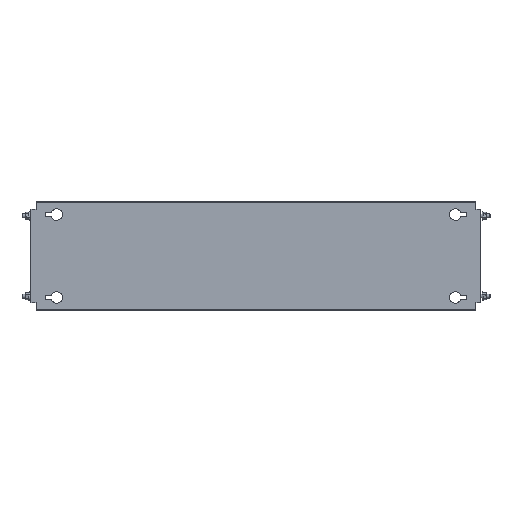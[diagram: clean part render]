
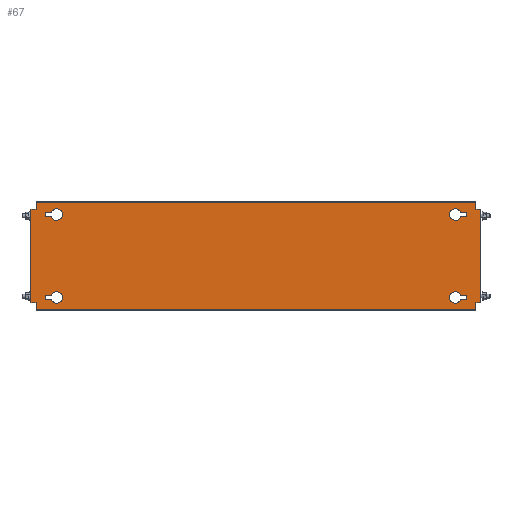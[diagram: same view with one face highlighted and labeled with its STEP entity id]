
A CAD part, top view. The second image highlights one B-rep face of the part: STEP entity #67.
In plain terms, the highlighted planar face has unit normal (0, 0, 1).
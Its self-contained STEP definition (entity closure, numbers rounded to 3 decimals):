
#67 = ADVANCED_FACE('',(#68,#103,#138,#300,#335),#370,.T.);
#68 = FACE_BOUND('',#69,.T.);
#69 = EDGE_LOOP('',(#70,#80,#88,#96));
#70 = ORIENTED_EDGE('',*,*,#71,.T.);
#71 = EDGE_CURVE('',#72,#74,#76,.T.);
#72 = VERTEX_POINT('',#73);
#73 = CARTESIAN_POINT('',(318.393,67.75,2.));
#74 = VERTEX_POINT('',#75);
#75 = CARTESIAN_POINT('',(328.,67.75,2.));
#76 = LINE('',#77,#78);
#77 = CARTESIAN_POINT('',(327.,67.75,2.));
#78 = VECTOR('',#79,1.);
#79 = DIRECTION('',(1.,0.,0.));
#80 = ORIENTED_EDGE('',*,*,#81,.T.);
#81 = EDGE_CURVE('',#74,#82,#84,.T.);
#82 = VERTEX_POINT('',#83);
#83 = CARTESIAN_POINT('',(328.,61.25,2.));
#84 = LINE('',#85,#86);
#85 = CARTESIAN_POINT('',(328.,67.75,2.));
#86 = VECTOR('',#87,1.);
#87 = DIRECTION('',(0.,-1.,0.));
#88 = ORIENTED_EDGE('',*,*,#89,.T.);
#89 = EDGE_CURVE('',#82,#90,#92,.T.);
#90 = VERTEX_POINT('',#91);
#91 = CARTESIAN_POINT('',(318.393,61.25,2.));
#92 = LINE('',#93,#94);
#93 = CARTESIAN_POINT('',(327.,61.25,2.));
#94 = VECTOR('',#95,1.);
#95 = DIRECTION('',(-1.,0.,0.));
#96 = ORIENTED_EDGE('',*,*,#97,.T.);
#97 = EDGE_CURVE('',#90,#72,#98,.T.);
#98 = CIRCLE('',#99,9.);
#99 = AXIS2_PLACEMENT_3D('',#100,#101,#102);
#100 = CARTESIAN_POINT('',(310.,64.5,2.));
#101 = DIRECTION('',(0.,0.,-1.));
#102 = DIRECTION('',(1.,0.,0.));
#103 = FACE_BOUND('',#104,.T.);
#104 = EDGE_LOOP('',(#105,#115,#123,#131));
#105 = ORIENTED_EDGE('',*,*,#106,.T.);
#106 = EDGE_CURVE('',#107,#109,#111,.T.);
#107 = VERTEX_POINT('',#108);
#108 = CARTESIAN_POINT('',(-318.393,-67.75,2.));
#109 = VERTEX_POINT('',#110);
#110 = CARTESIAN_POINT('',(-328.,-67.75,2.));
#111 = LINE('',#112,#113);
#112 = CARTESIAN_POINT('',(-327.,-67.75,2.));
#113 = VECTOR('',#114,1.);
#114 = DIRECTION('',(-1.,0.,0.));
#115 = ORIENTED_EDGE('',*,*,#116,.T.);
#116 = EDGE_CURVE('',#109,#117,#119,.T.);
#117 = VERTEX_POINT('',#118);
#118 = CARTESIAN_POINT('',(-328.,-61.25,2.));
#119 = LINE('',#120,#121);
#120 = CARTESIAN_POINT('',(-328.,-67.75,2.));
#121 = VECTOR('',#122,1.);
#122 = DIRECTION('',(0.,1.,0.));
#123 = ORIENTED_EDGE('',*,*,#124,.T.);
#124 = EDGE_CURVE('',#117,#125,#127,.T.);
#125 = VERTEX_POINT('',#126);
#126 = CARTESIAN_POINT('',(-318.393,-61.25,2.));
#127 = LINE('',#128,#129);
#128 = CARTESIAN_POINT('',(-327.,-61.25,2.));
#129 = VECTOR('',#130,1.);
#130 = DIRECTION('',(1.,0.,-0.));
#131 = ORIENTED_EDGE('',*,*,#132,.T.);
#132 = EDGE_CURVE('',#125,#107,#133,.T.);
#133 = CIRCLE('',#134,9.);
#134 = AXIS2_PLACEMENT_3D('',#135,#136,#137);
#135 = CARTESIAN_POINT('',(-310.,-64.5,2.));
#136 = DIRECTION('',(0.,0.,-1.));
#137 = DIRECTION('',(-1.,0.,0.));
#138 = FACE_BOUND('',#139,.T.);
#139 = EDGE_LOOP('',(#140,#150,#158,#166,#174,#182,#190,#198,#206,#214,
    #222,#230,#238,#246,#254,#262,#270,#278,#286,#294));
#140 = ORIENTED_EDGE('',*,*,#141,.F.);
#141 = EDGE_CURVE('',#142,#144,#146,.T.);
#142 = VERTEX_POINT('',#143);
#143 = CARTESIAN_POINT('',(-347.4,72.5,2.));
#144 = VERTEX_POINT('',#145);
#145 = CARTESIAN_POINT('',(-342.,72.5,2.));
#146 = LINE('',#147,#148);
#147 = CARTESIAN_POINT('',(-348.,72.5,2.));
#148 = VECTOR('',#149,1.);
#149 = DIRECTION('',(1.,0.,-0.));
#150 = ORIENTED_EDGE('',*,*,#151,.T.);
#151 = EDGE_CURVE('',#142,#152,#154,.T.);
#152 = VERTEX_POINT('',#153);
#153 = CARTESIAN_POINT('',(-350.,72.5,2.));
#154 = LINE('',#155,#156);
#155 = CARTESIAN_POINT('',(-347.4,72.5,2.));
#156 = VECTOR('',#157,1.);
#157 = DIRECTION('',(-1.,0.,0.));
#158 = ORIENTED_EDGE('',*,*,#159,.F.);
#159 = EDGE_CURVE('',#160,#152,#162,.T.);
#160 = VERTEX_POINT('',#161);
#161 = CARTESIAN_POINT('',(-350.,-72.5,2.));
#162 = LINE('',#163,#164);
#163 = CARTESIAN_POINT('',(-350.,-82.5,2.));
#164 = VECTOR('',#165,1.);
#165 = DIRECTION('',(-0.,1.,-0.));
#166 = ORIENTED_EDGE('',*,*,#167,.F.);
#167 = EDGE_CURVE('',#168,#160,#170,.T.);
#168 = VERTEX_POINT('',#169);
#169 = CARTESIAN_POINT('',(-347.4,-72.5,2.));
#170 = LINE('',#171,#172);
#171 = CARTESIAN_POINT('',(-342.,-72.5,2.));
#172 = VECTOR('',#173,1.);
#173 = DIRECTION('',(-1.,-0.,-0.));
#174 = ORIENTED_EDGE('',*,*,#175,.T.);
#175 = EDGE_CURVE('',#168,#176,#178,.T.);
#176 = VERTEX_POINT('',#177);
#177 = CARTESIAN_POINT('',(-342.,-72.5,2.));
#178 = LINE('',#179,#180);
#179 = CARTESIAN_POINT('',(-348.,-72.5,2.));
#180 = VECTOR('',#181,1.);
#181 = DIRECTION('',(1.,0.,-0.));
#182 = ORIENTED_EDGE('',*,*,#183,.T.);
#183 = EDGE_CURVE('',#176,#184,#186,.T.);
#184 = VERTEX_POINT('',#185);
#185 = CARTESIAN_POINT('',(-342.,-81.9,2.));
#186 = LINE('',#187,#188);
#187 = CARTESIAN_POINT('',(-342.,82.5,2.));
#188 = VECTOR('',#189,1.);
#189 = DIRECTION('',(0.,-1.,0.));
#190 = ORIENTED_EDGE('',*,*,#191,.T.);
#191 = EDGE_CURVE('',#184,#192,#194,.T.);
#192 = VERTEX_POINT('',#193);
#193 = CARTESIAN_POINT('',(-342.,-82.5,2.));
#194 = LINE('',#195,#196);
#195 = CARTESIAN_POINT('',(-342.,-81.9,2.));
#196 = VECTOR('',#197,1.);
#197 = DIRECTION('',(-0.,-1.,-0.));
#198 = ORIENTED_EDGE('',*,*,#199,.T.);
#199 = EDGE_CURVE('',#192,#200,#202,.T.);
#200 = VERTEX_POINT('',#201);
#201 = CARTESIAN_POINT('',(342.,-82.5,2.));
#202 = LINE('',#203,#204);
#203 = CARTESIAN_POINT('',(342.,-82.5,2.));
#204 = VECTOR('',#205,1.);
#205 = DIRECTION('',(1.,0.,0.));
#206 = ORIENTED_EDGE('',*,*,#207,.F.);
#207 = EDGE_CURVE('',#208,#200,#210,.T.);
#208 = VERTEX_POINT('',#209);
#209 = CARTESIAN_POINT('',(342.,-81.9,2.));
#210 = LINE('',#211,#212);
#211 = CARTESIAN_POINT('',(342.,-82.5,2.));
#212 = VECTOR('',#213,1.);
#213 = DIRECTION('',(0.,-1.,0.));
#214 = ORIENTED_EDGE('',*,*,#215,.T.);
#215 = EDGE_CURVE('',#208,#216,#218,.T.);
#216 = VERTEX_POINT('',#217);
#217 = CARTESIAN_POINT('',(342.,-72.5,2.));
#218 = LINE('',#219,#220);
#219 = CARTESIAN_POINT('',(342.,82.5,2.));
#220 = VECTOR('',#221,1.);
#221 = DIRECTION('',(0.,1.,-0.));
#222 = ORIENTED_EDGE('',*,*,#223,.F.);
#223 = EDGE_CURVE('',#224,#216,#226,.T.);
#224 = VERTEX_POINT('',#225);
#225 = CARTESIAN_POINT('',(347.4,-72.5,2.));
#226 = LINE('',#227,#228);
#227 = CARTESIAN_POINT('',(348.,-72.5,2.));
#228 = VECTOR('',#229,1.);
#229 = DIRECTION('',(-1.,0.,-0.));
#230 = ORIENTED_EDGE('',*,*,#231,.T.);
#231 = EDGE_CURVE('',#224,#232,#234,.T.);
#232 = VERTEX_POINT('',#233);
#233 = CARTESIAN_POINT('',(350.,-72.5,2.));
#234 = LINE('',#235,#236);
#235 = CARTESIAN_POINT('',(347.4,-72.5,2.));
#236 = VECTOR('',#237,1.);
#237 = DIRECTION('',(1.,-0.,0.));
#238 = ORIENTED_EDGE('',*,*,#239,.F.);
#239 = EDGE_CURVE('',#240,#232,#242,.T.);
#240 = VERTEX_POINT('',#241);
#241 = CARTESIAN_POINT('',(350.,72.5,2.));
#242 = LINE('',#243,#244);
#243 = CARTESIAN_POINT('',(350.,-82.5,2.));
#244 = VECTOR('',#245,1.);
#245 = DIRECTION('',(-0.,-1.,0.));
#246 = ORIENTED_EDGE('',*,*,#247,.F.);
#247 = EDGE_CURVE('',#248,#240,#250,.T.);
#248 = VERTEX_POINT('',#249);
#249 = CARTESIAN_POINT('',(347.4,72.5,2.));
#250 = LINE('',#251,#252);
#251 = CARTESIAN_POINT('',(-342.,72.5,2.));
#252 = VECTOR('',#253,1.);
#253 = DIRECTION('',(1.,-0.,0.));
#254 = ORIENTED_EDGE('',*,*,#255,.T.);
#255 = EDGE_CURVE('',#248,#256,#258,.T.);
#256 = VERTEX_POINT('',#257);
#257 = CARTESIAN_POINT('',(342.,72.5,2.));
#258 = LINE('',#259,#260);
#259 = CARTESIAN_POINT('',(348.,72.5,2.));
#260 = VECTOR('',#261,1.);
#261 = DIRECTION('',(-1.,0.,-0.));
#262 = ORIENTED_EDGE('',*,*,#263,.T.);
#263 = EDGE_CURVE('',#256,#264,#266,.T.);
#264 = VERTEX_POINT('',#265);
#265 = CARTESIAN_POINT('',(342.,81.9,2.));
#266 = LINE('',#267,#268);
#267 = CARTESIAN_POINT('',(342.,82.5,2.));
#268 = VECTOR('',#269,1.);
#269 = DIRECTION('',(0.,1.,-0.));
#270 = ORIENTED_EDGE('',*,*,#271,.T.);
#271 = EDGE_CURVE('',#264,#272,#274,.T.);
#272 = VERTEX_POINT('',#273);
#273 = CARTESIAN_POINT('',(342.,82.5,2.));
#274 = LINE('',#275,#276);
#275 = CARTESIAN_POINT('',(342.,81.9,2.));
#276 = VECTOR('',#277,1.);
#277 = DIRECTION('',(-0.,1.,-0.));
#278 = ORIENTED_EDGE('',*,*,#279,.T.);
#279 = EDGE_CURVE('',#272,#280,#282,.T.);
#280 = VERTEX_POINT('',#281);
#281 = CARTESIAN_POINT('',(-342.,82.5,2.));
#282 = LINE('',#283,#284);
#283 = CARTESIAN_POINT('',(-342.,82.5,2.));
#284 = VECTOR('',#285,1.);
#285 = DIRECTION('',(-1.,0.,0.));
#286 = ORIENTED_EDGE('',*,*,#287,.F.);
#287 = EDGE_CURVE('',#288,#280,#290,.T.);
#288 = VERTEX_POINT('',#289);
#289 = CARTESIAN_POINT('',(-342.,81.9,2.));
#290 = LINE('',#291,#292);
#291 = CARTESIAN_POINT('',(-342.,-82.5,2.));
#292 = VECTOR('',#293,1.);
#293 = DIRECTION('',(0.,1.,-0.));
#294 = ORIENTED_EDGE('',*,*,#295,.T.);
#295 = EDGE_CURVE('',#288,#144,#296,.T.);
#296 = LINE('',#297,#298);
#297 = CARTESIAN_POINT('',(-342.,82.5,2.));
#298 = VECTOR('',#299,1.);
#299 = DIRECTION('',(0.,-1.,0.));
#300 = FACE_BOUND('',#301,.T.);
#301 = EDGE_LOOP('',(#302,#312,#320,#328));
#302 = ORIENTED_EDGE('',*,*,#303,.F.);
#303 = EDGE_CURVE('',#304,#306,#308,.T.);
#304 = VERTEX_POINT('',#305);
#305 = CARTESIAN_POINT('',(328.,-61.25,2.));
#306 = VERTEX_POINT('',#307);
#307 = CARTESIAN_POINT('',(318.393,-61.25,2.));
#308 = LINE('',#309,#310);
#309 = CARTESIAN_POINT('',(318.393,-61.25,2.));
#310 = VECTOR('',#311,1.);
#311 = DIRECTION('',(-1.,0.,0.));
#312 = ORIENTED_EDGE('',*,*,#313,.F.);
#313 = EDGE_CURVE('',#314,#304,#316,.T.);
#314 = VERTEX_POINT('',#315);
#315 = CARTESIAN_POINT('',(328.,-67.75,2.));
#316 = LINE('',#317,#318);
#317 = CARTESIAN_POINT('',(328.,-61.25,2.));
#318 = VECTOR('',#319,1.);
#319 = DIRECTION('',(0.,1.,0.));
#320 = ORIENTED_EDGE('',*,*,#321,.F.);
#321 = EDGE_CURVE('',#322,#314,#324,.T.);
#322 = VERTEX_POINT('',#323);
#323 = CARTESIAN_POINT('',(318.393,-67.75,2.));
#324 = LINE('',#325,#326);
#325 = CARTESIAN_POINT('',(327.,-67.75,2.));
#326 = VECTOR('',#327,1.);
#327 = DIRECTION('',(1.,0.,0.));
#328 = ORIENTED_EDGE('',*,*,#329,.F.);
#329 = EDGE_CURVE('',#306,#322,#330,.T.);
#330 = CIRCLE('',#331,9.);
#331 = AXIS2_PLACEMENT_3D('',#332,#333,#334);
#332 = CARTESIAN_POINT('',(310.,-64.5,2.));
#333 = DIRECTION('',(0.,-0.,1.));
#334 = DIRECTION('',(1.,0.,0.));
#335 = FACE_BOUND('',#336,.T.);
#336 = EDGE_LOOP('',(#337,#347,#355,#363));
#337 = ORIENTED_EDGE('',*,*,#338,.F.);
#338 = EDGE_CURVE('',#339,#341,#343,.T.);
#339 = VERTEX_POINT('',#340);
#340 = CARTESIAN_POINT('',(-328.,61.25,2.));
#341 = VERTEX_POINT('',#342);
#342 = CARTESIAN_POINT('',(-318.393,61.25,2.));
#343 = LINE('',#344,#345);
#344 = CARTESIAN_POINT('',(-318.393,61.25,2.));
#345 = VECTOR('',#346,1.);
#346 = DIRECTION('',(1.,0.,0.));
#347 = ORIENTED_EDGE('',*,*,#348,.F.);
#348 = EDGE_CURVE('',#349,#339,#351,.T.);
#349 = VERTEX_POINT('',#350);
#350 = CARTESIAN_POINT('',(-328.,67.75,2.));
#351 = LINE('',#352,#353);
#352 = CARTESIAN_POINT('',(-328.,61.25,2.));
#353 = VECTOR('',#354,1.);
#354 = DIRECTION('',(0.,-1.,0.));
#355 = ORIENTED_EDGE('',*,*,#356,.F.);
#356 = EDGE_CURVE('',#357,#349,#359,.T.);
#357 = VERTEX_POINT('',#358);
#358 = CARTESIAN_POINT('',(-318.393,67.75,2.));
#359 = LINE('',#360,#361);
#360 = CARTESIAN_POINT('',(-327.,67.75,2.));
#361 = VECTOR('',#362,1.);
#362 = DIRECTION('',(-1.,0.,0.));
#363 = ORIENTED_EDGE('',*,*,#364,.F.);
#364 = EDGE_CURVE('',#341,#357,#365,.T.);
#365 = CIRCLE('',#366,9.);
#366 = AXIS2_PLACEMENT_3D('',#367,#368,#369);
#367 = CARTESIAN_POINT('',(-310.,64.5,2.));
#368 = DIRECTION('',(0.,-0.,1.));
#369 = DIRECTION('',(-1.,0.,0.));
#370 = PLANE('',#371);
#371 = AXIS2_PLACEMENT_3D('',#372,#373,#374);
#372 = CARTESIAN_POINT('',(-342.,-82.5,2.));
#373 = DIRECTION('',(-0.,0.,1.));
#374 = DIRECTION('',(1.,0.,0.));
